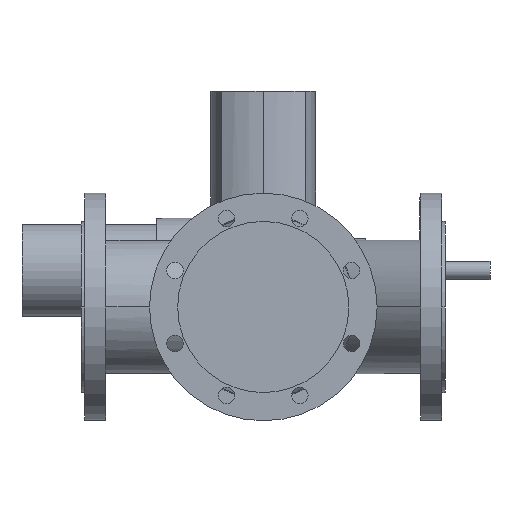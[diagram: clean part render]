
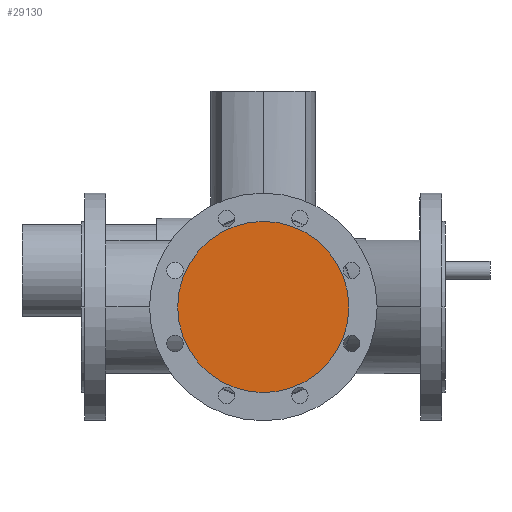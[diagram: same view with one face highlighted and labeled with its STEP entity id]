
A CAD part, front view. The second image highlights one B-rep face of the part: STEP entity #29130.
In plain terms, the highlighted planar face has unit normal (0, -1, 0).
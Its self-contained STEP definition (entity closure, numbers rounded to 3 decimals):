
#5180=CARTESIAN_POINT('',(106.,-200.,0.));
#5190=VERTEX_POINT('',#5180);
#5220=CARTESIAN_POINT('',(200.,-200.,0.));
#5230=DIRECTION('',(0.,1.,0.));
#5240=DIRECTION('',(1.,0.,0.));
#5250=AXIS2_PLACEMENT_3D('',#5220,#5230,#5240);
#5260=CIRCLE('',#5250,94.);
#5270=CARTESIAN_POINT('',(294.,-200.,0.));
#5280=VERTEX_POINT('',#5270);
#5290=EDGE_CURVE('',#5280,#5190,#5260,.T.);
#29030=CARTESIAN_POINT('',(247.,-200.,0.));
#29040=DIRECTION('',(0.,-1.,0.));
#29050=DIRECTION('',(-1.,0.,0.));
#29060=AXIS2_PLACEMENT_3D('',#29030,#29040,#29050);
#29070=PLANE('',#29060);
#29080=ORIENTED_EDGE('',*,*,#5290,.F.);
#29090=EDGE_CURVE('',#5190,#5280,#5260,.T.);
#29100=ORIENTED_EDGE('',*,*,#29090,.F.);
#29110=EDGE_LOOP('',(#29100,#29080));
#29120=FACE_OUTER_BOUND('',#29110,.T.);
#29130=ADVANCED_FACE('',(#29120),#29070,.T.);
